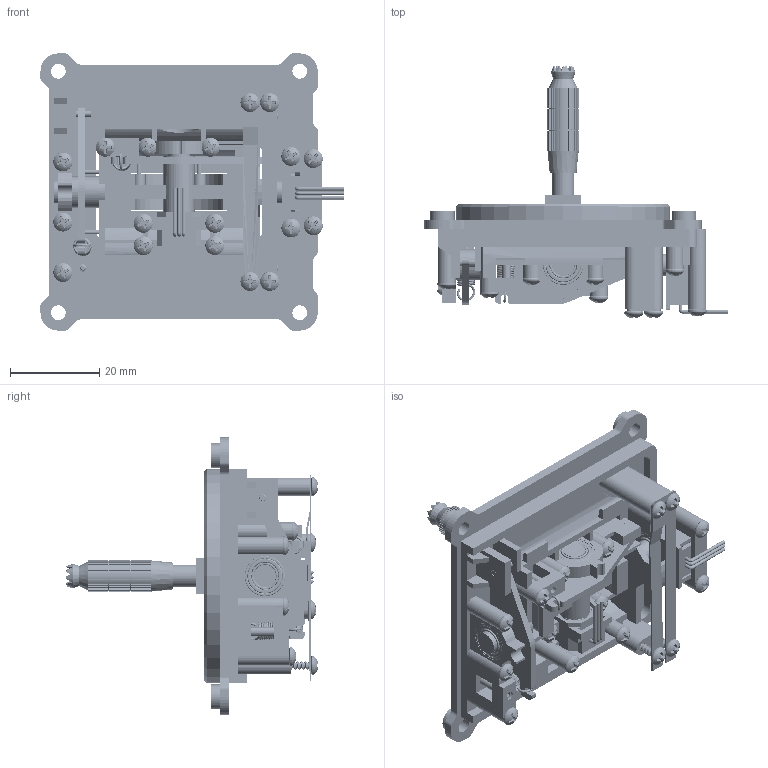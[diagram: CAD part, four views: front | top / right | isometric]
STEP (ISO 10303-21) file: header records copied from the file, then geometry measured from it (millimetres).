
FILE_DESCRIPTION (( 'STEP AP214' ), '1' );
FILE_NAME ('FrSky M9 Gimbal.STEP', '2025-10-07T16:54:50', ( '' ), ( '' ), 'SwSTEP 2.0', 'SolidWorks 2025', '' );
FILE_SCHEMA (( 'AUTOMOTIVE_DESIGN' ));
Length unit declared in the file: millimetre
Products named in the file (29): 90485A415_Stainless Steel Flat Head Thread-Forming Screws for Plastic_90485A415; Stick Shaft; 90380A261_Phillips Rounded Head Thread-Forming Screws_90380A261_2; 90380A261_Phillips Rounded Head Thread-Forming Screws_90380A261; Roll Cam; M95 Bearing; Pitch Limit Pin; Roll Lever Pin; FrSky M9 Gimbal; Friction Plate^FrSky M9 Gimbal; Pitch Cam; M4 L=3; TensioAdjustScrew; TensionerTop; 90380A014_Phillips Rounded Head Thread-Forming Screws_90380A014; Spring 90; Pitch Block; Stick Shaft Grip; Wires; TensioAdjustBlock; TopPlate; Mechanism Base; Roll Limit Pin; HallEffectPCB; 90380A011_Phillips Rounded Head Thread-Forming Screws_90380A011; Roll Block^FrSky M9 Gimbal; Roll Tension Adjust Block
Assembly tree (55 placements, depth 3):
  FrSky M9 Gimbal
    TopPlate
    Pitch Block
    Roll Block^FrSky M9 Gimbal
    Stick Shaft
    Stick Shaft Grip
    Roll Limit Pin  x2
    Mechanism Base
    Roll Lever Pin  x2
    Friction Plate^FrSky M9 Gimbal
    90380A011_Phillips Rounded Head Thread-Forming Screws_90380A011  x4
    90380A261_Phillips Rounded Head Thread-Forming Screws_90380A261  x11
    90380A014_Phillips Rounded Head Thread-Forming Screws_90380A014  x2
    Pitch Cam
    Roll Cam
    Pitch Limit Pin  x2
    Spring 90  x2
    TensioAdjustBlock
    TensionerTop
    TensioAdjustScrew  x2
    HallEffectPCB  x2
    Wires  x2
    M4 L=3
    90485A415_Stainless Steel Flat Head Thread-Forming Screws for Plastic_90485A415  x4
    90380A261_Phillips Rounded Head Thread-Forming Screws_90380A261
      90380A261_Phillips Rounded Head Thread-Forming Screws_90380A261
      90380A261_Phillips Rounded Head Thread-Forming Screws_90380A261_2
    Roll Tension Adjust Block
    M95 Bearing  x4
Bounding box: 67.78 x 56.41 x 62 mm (x, y, z)
Volume: 26250.2 mm3; surface area: 35151.6 mm2
Topology: 146 solids, 146 shells, 4499 faces, 12480 edges, 8097 vertices
Faces by surface type: plane 1837, cylinder 1233, cone 673, torus 402, sphere 234, bspline 120
Entity records: 94378 total; most frequent: CARTESIAN_POINT 31314, ORIENTED_EDGE 12550, DIRECTION 11775, EDGE_CURVE 6275, AXIS2_PLACEMENT_3D 4115, VERTEX_POINT 3994, VECTOR 3545, LINE 3545
